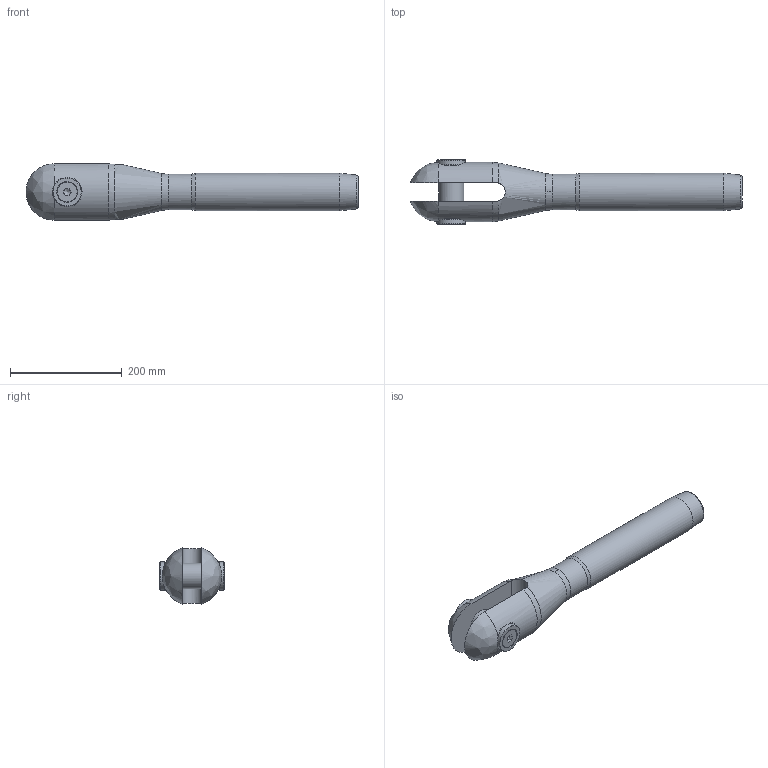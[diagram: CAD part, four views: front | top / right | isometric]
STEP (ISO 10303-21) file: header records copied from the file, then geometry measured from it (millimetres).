
FILE_DESCRIPTION(/* description */ (''),/* implementation_level */ '2;1');
FILE_NAME(/* name */ 'MAC 32_1,4418',/* time_stamp */ '2023-05-23T16:54:56+02:00',/* author */ (''),/* organization */ (''),/* preprocessor_version */ 'ST-DEVELOPER v16.5',/* originating_system */ 'Rhino 7.22',/* authorisation */ '');
FILE_SCHEMA (('CONFIG_CONTROL_DESIGN'));
Length unit declared in the file: millimetre
Products named in the file (1): Document
Bounding box: 593.09 x 115.01 x 100.4 mm (x, y, z)
Volume: 2456625.8 mm3; surface area: 212994.9 mm2
Topology: 6 solids, 6 shells, 75 faces, 210 edges, 145 vertices
Faces by surface type: plane 29, bspline 24, cylinder 22
Full cylindrical faces by diameter (mm): 17.294 x2, 20 x2, 21 x2, 35.4 x2, 45 x1, 47 x2, 51 x2, 63.5 x1, 66.8 x1
Entity records: 3170 total; most frequent: CARTESIAN_POINT 1823, ORIENTED_EDGE 412, EDGE_CURVE 206, VERTEX_POINT 145, EDGE_LOOP 85, B_SPLINE_CURVE_WITH_KNOTS 84, ADVANCED_FACE 75, FACE_OUTER_BOUND 75
